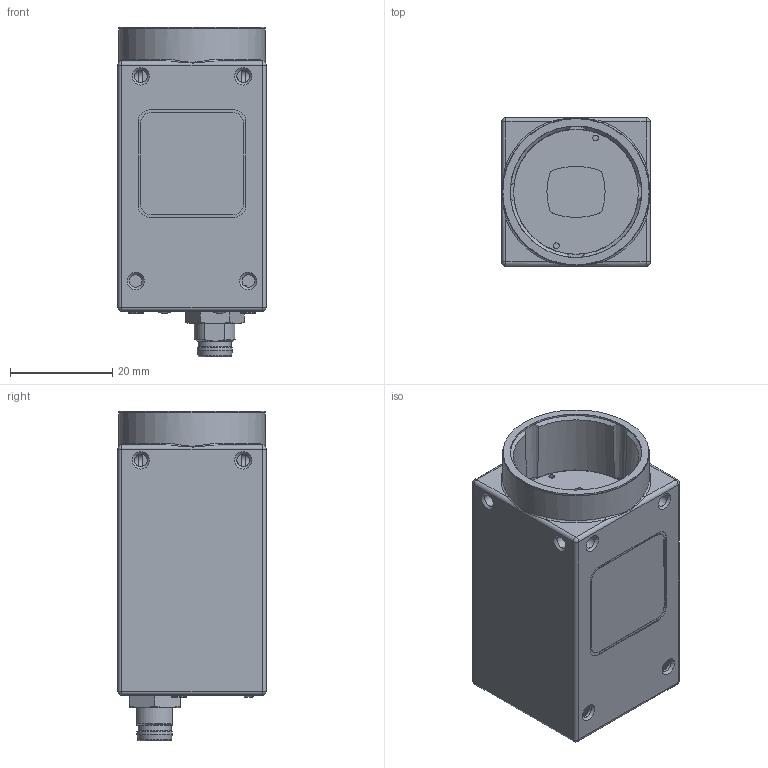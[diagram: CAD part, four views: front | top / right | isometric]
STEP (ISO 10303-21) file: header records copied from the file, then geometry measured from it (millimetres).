
FILE_DESCRIPTION( ( 'Unknown' ), '1' );
FILE_NAME( 'Z:/entw/Konstruktion/Mcad/Solid Edge/11160000/11164973_VCXG-13M.stp', '14.10.2014', ( 'Unknown' ), ( 'Unknown' ), 'PSStep 15.0.49', 'Unknown', ' ' );
FILE_SCHEMA( ( 'AUTOMOTIVE_DESIGN { 1 0 10303 214 1 1 1 1 }' ) );
Length unit declared in the file: millimetre
Products named in the file (4): 11080147
Bounding box: 29 x 29 x 64.4 mm (x, y, z)
Volume: 13405.7 mm3; surface area: 22876.9 mm2
Topology: 4 solids, 9 shells, 2554 faces, 7188 edges, 4639 vertices
Faces by surface type: plane 1643, cylinder 698, cone 72, torus 53, sphere 48, bspline 36, extrusion 4
Full cylindrical faces by diameter (mm): 0.217 x1, 0.6 x16, 1.1 x2, 1.4 x4, 1.567 x2, 1.6 x2, 1.9 x4, 2.459 x10, 3 x4, 6.5 x1, 6.9 x1, 8.4 x1, 9 x1, 9.4 x1, 24.4 x1, 25.7 x1, 26 x1, 28.6 x1, 28.7 x1
Entity records: 114220 total; most frequent: CARTESIAN_POINT 18813, ORIENTED_EDGE 13962, DIRECTION 13178, EDGE_CURVE 6981, VECTOR 4996, LINE 4992, VERTEX_POINT 4569, PRESENTATION_STYLE_ASSIGNMENT 4552
